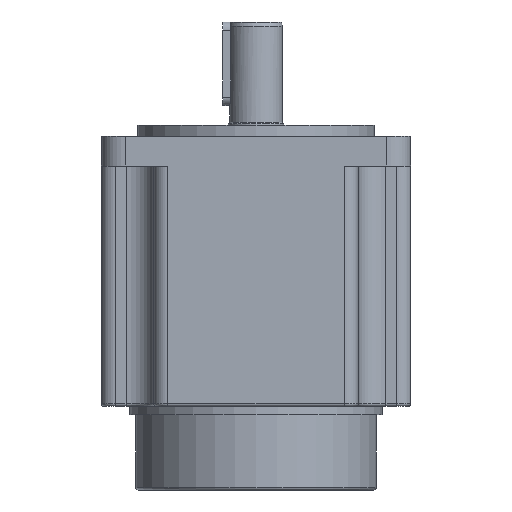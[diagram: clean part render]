
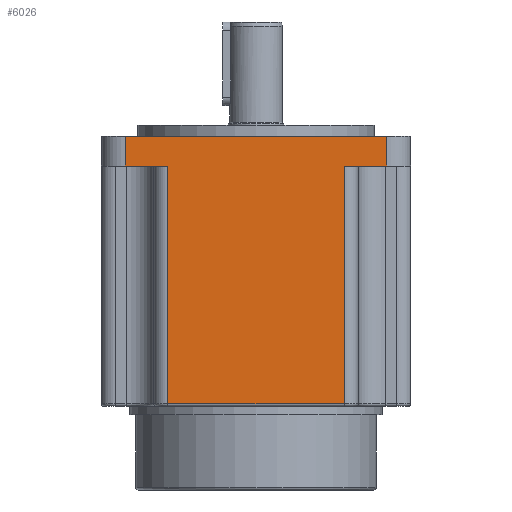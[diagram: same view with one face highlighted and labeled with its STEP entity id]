
A CAD part, front view. The second image highlights one B-rep face of the part: STEP entity #6026.
In plain terms, the highlighted planar face has unit normal (0, -1, 0).
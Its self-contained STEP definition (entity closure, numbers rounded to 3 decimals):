
#66 = DIRECTION ( 'NONE',  ( 0., 0., 1. ) ) ;
#204 = EDGE_CURVE ( 'NONE', #1939, #4141, #6058, .T. ) ;
#222 = CARTESIAN_POINT ( 'NONE',  ( 46.9, -55.5, 10.7 ) ) ;
#245 = CARTESIAN_POINT ( 'NONE',  ( 46.9, -55.5, 10.7 ) ) ;
#307 = CARTESIAN_POINT ( 'NONE',  ( 31.65, -55.5, -86.3 ) ) ;
#707 = CARTESIAN_POINT ( 'NONE',  ( -46.9, -55.5, 0. ) ) ;
#708 = DIRECTION ( 'NONE',  ( 1., 0., 0. ) ) ;
#745 = VECTOR ( 'NONE', #708, 1000. ) ;
#1131 = CARTESIAN_POINT ( 'NONE',  ( 31.65, -55.5, 0. ) ) ;
#1219 = VERTEX_POINT ( 'NONE', #8419 ) ;
#1268 = ORIENTED_EDGE ( 'NONE', *, *, #5278, .T. ) ;
#1493 = LINE ( 'NONE', #307, #3023 ) ;
#1517 = VECTOR ( 'NONE', #3137, 1000. ) ;
#1526 = ORIENTED_EDGE ( 'NONE', *, *, #204, .T. ) ;
#1544 = DIRECTION ( 'NONE',  ( 0., 0., -1. ) ) ;
#1625 = CARTESIAN_POINT ( 'NONE',  ( -31.65, -55.5, 0. ) ) ;
#1719 = DIRECTION ( 'NONE',  ( 0., 0., -1. ) ) ;
#1729 = EDGE_LOOP ( 'NONE', ( #5233, #4023, #1268, #3790, #7202, #2717, #7115, #1526 ) ) ;
#1788 = DIRECTION ( 'NONE',  ( 0., 0., 1. ) ) ;
#1791 = VERTEX_POINT ( 'NONE', #1131 ) ;
#1831 = EDGE_CURVE ( 'NONE', #1791, #2811, #8115, .T. ) ;
#1939 = VERTEX_POINT ( 'NONE', #8095 ) ;
#2147 = VERTEX_POINT ( 'NONE', #5671 ) ;
#2310 = VECTOR ( 'NONE', #1544, 1000. ) ;
#2409 = CARTESIAN_POINT ( 'NONE',  ( -46.9, -55.5, 10.7 ) ) ;
#2509 = LINE ( 'NONE', #222, #2310 ) ;
#2668 = PLANE ( 'NONE',  #5993 ) ;
#2717 = ORIENTED_EDGE ( 'NONE', *, *, #6208, .F. ) ;
#2811 = VERTEX_POINT ( 'NONE', #2943 ) ;
#2867 = CARTESIAN_POINT ( 'NONE',  ( -46.9, -55.5, 10.7 ) ) ;
#2943 = CARTESIAN_POINT ( 'NONE',  ( 46.9, -55.5, 0. ) ) ;
#3004 = VECTOR ( 'NONE', #4172, 1000. ) ;
#3023 = VECTOR ( 'NONE', #6910, 1000. ) ;
#3104 = VECTOR ( 'NONE', #1788, 1000. ) ;
#3137 = DIRECTION ( 'NONE',  ( 1., 0., 0. ) ) ;
#3215 = LINE ( 'NONE', #2409, #4989 ) ;
#3657 = EDGE_CURVE ( 'NONE', #1219, #1939, #3215, .T. ) ;
#3790 = ORIENTED_EDGE ( 'NONE', *, *, #1831, .T. ) ;
#3968 = CARTESIAN_POINT ( 'NONE',  ( -46.9, -55.5, 10.7 ) ) ;
#3995 = DIRECTION ( 'NONE',  ( 0., 1., 0. ) ) ;
#4018 = CARTESIAN_POINT ( 'NONE',  ( -31.65, -55.5, -85.3 ) ) ;
#4023 = ORIENTED_EDGE ( 'NONE', *, *, #6047, .T. ) ;
#4064 = EDGE_CURVE ( 'NONE', #5653, #2811, #2509, .T. ) ;
#4095 = VECTOR ( 'NONE', #4657, 1000. ) ;
#4141 = VERTEX_POINT ( 'NONE', #1625 ) ;
#4172 = DIRECTION ( 'NONE',  ( 1., 0., 0. ) ) ;
#4461 = LINE ( 'NONE', #7306, #745 ) ;
#4657 = DIRECTION ( 'NONE',  ( 1., 0., 0. ) ) ;
#4768 = LINE ( 'NONE', #2867, #3004 ) ;
#4989 = VECTOR ( 'NONE', #1719, 1000. ) ;
#5233 = ORIENTED_EDGE ( 'NONE', *, *, #6387, .F. ) ;
#5278 = EDGE_CURVE ( 'NONE', #2147, #1791, #1493, .T. ) ;
#5653 = VERTEX_POINT ( 'NONE', #245 ) ;
#5671 = CARTESIAN_POINT ( 'NONE',  ( 31.65, -55.5, -85.3 ) ) ;
#5993 = AXIS2_PLACEMENT_3D ( 'NONE', #3968, #3995, #66 ) ;
#6026 = ADVANCED_FACE ( 'NONE', ( #7765 ), #2668, .F. ) ;
#6047 = EDGE_CURVE ( 'NONE', #7120, #2147, #4461, .T. ) ;
#6058 = LINE ( 'NONE', #707, #4095 ) ;
#6208 = EDGE_CURVE ( 'NONE', #1219, #5653, #4768, .T. ) ;
#6387 = EDGE_CURVE ( 'NONE', #7120, #4141, #6615, .T. ) ;
#6615 = LINE ( 'NONE', #7695, #3104 ) ;
#6910 = DIRECTION ( 'NONE',  ( 0., 0., 1. ) ) ;
#7079 = CARTESIAN_POINT ( 'NONE',  ( -46.9, -55.5, 0. ) ) ;
#7115 = ORIENTED_EDGE ( 'NONE', *, *, #3657, .T. ) ;
#7120 = VERTEX_POINT ( 'NONE', #4018 ) ;
#7202 = ORIENTED_EDGE ( 'NONE', *, *, #4064, .F. ) ;
#7306 = CARTESIAN_POINT ( 'NONE',  ( -46.9, -55.5, -85.3 ) ) ;
#7695 = CARTESIAN_POINT ( 'NONE',  ( -31.65, -55.5, -86.3 ) ) ;
#7765 = FACE_OUTER_BOUND ( 'NONE', #1729, .T. ) ;
#8095 = CARTESIAN_POINT ( 'NONE',  ( -46.9, -55.5, 0. ) ) ;
#8115 = LINE ( 'NONE', #7079, #1517 ) ;
#8419 = CARTESIAN_POINT ( 'NONE',  ( -46.9, -55.5, 10.7 ) ) ;
